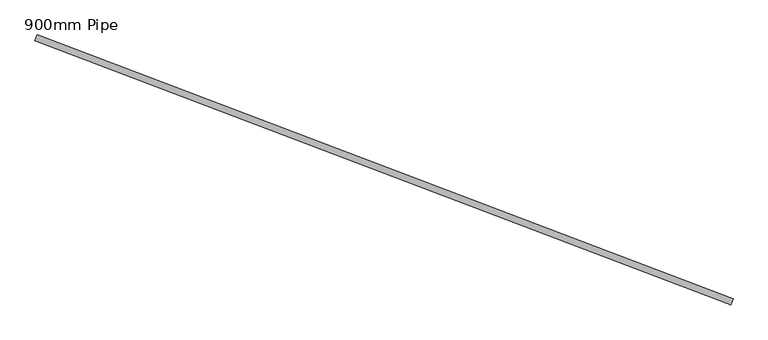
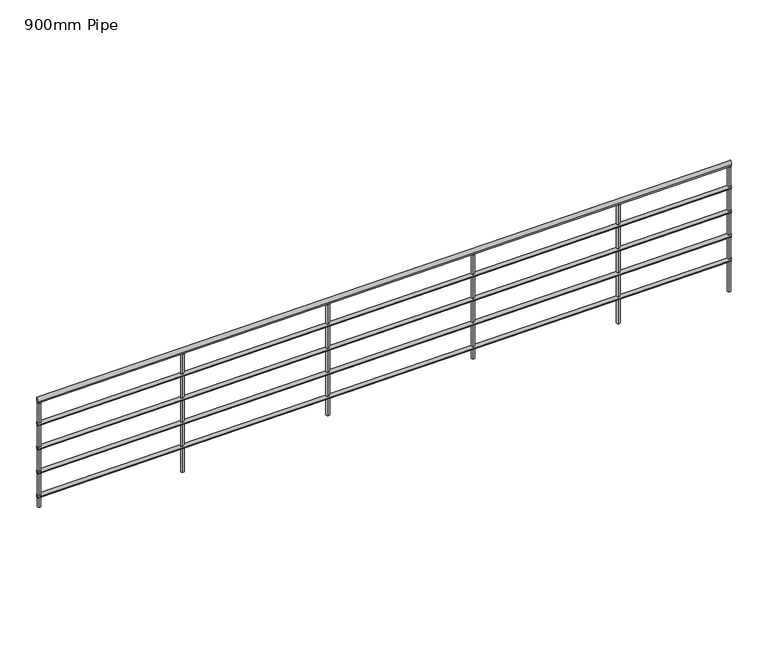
"""IFC4 building model written with IfcOpenShell, lengths in millimetres: railing geometry, 900mm Pipe."""

from ifc_helpers import new_model, si_unit, frame, origin, place, context, project, spatial, circle_curve, ellipse_curve, source, transform, mapped, element, save
from ifc_brep_helpers import plane_surface, cylinder_surface, advanced_brep


def railing_900mm_pipe_20712208(model_context):
    return source(origin(), model_context, "Body", "AdvancedBrep", [
        advanced_brep(
        [(920409.5984753, 6145.726516, 7058.4111789), (920423.8057979, 6183.1183865, 7058.4111789), (924873.0094972, 4449.8199024, 8492.7641201), (924887.2168199, 4487.211773, 8492.7641201)],
        [
            (0, 1, ellipse_curve(frame((920416.7021366, 6164.4224513, 7058.4111789), z_axis=(-0.9347967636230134, 0.3551830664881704, 0.0), x_axis=(0.0, 0.0, -0.9999999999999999)), 20.8829388, 20.0)),
            (1, 0, ellipse_curve(frame((920416.7021366, 6164.4224513, 7058.4111789), z_axis=(-0.9347967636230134, 0.3551830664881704, 0.0), x_axis=(0.0, 0.0, -0.9999999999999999)), 20.8829388, 20.0)),
            (2, 3, ellipse_curve(frame((924880.1131585, 4468.5158377, 8492.7641201), z_axis=(0.9347967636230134, -0.3551830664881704, 0.0), x_axis=(0.0, 0.0, -0.9999999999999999)), 20.8829388, 20.0)),
            (3, 2, ellipse_curve(frame((924880.1131585, 4468.5158377, 8492.7641201), z_axis=(0.9347967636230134, -0.3551830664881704, 0.0), x_axis=(0.0, 0.0, -0.9999999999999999)), 20.8829388, 20.0)),
            (1, 3),
            (2, 0),
        ],
        [
            plane_surface(frame((920416.7021366, 6164.4224513, 7079.2941176), z_axis=(-0.9347967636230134, 0.3551830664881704, 0.0), x_axis=(0.3551830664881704, 0.9347967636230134, 0.0))),
            plane_surface(frame((924880.1131585, 4468.5158377, 8513.6470588), z_axis=(0.9347967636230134, -0.3551830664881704, 0.0), x_axis=(0.3551830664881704, 0.9347967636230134, 0.0))),
            cylinder_surface(frame((920422.0810174, 6162.378705, 7060.1397254), z_axis=(-0.8952731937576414, 0.3401657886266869, -0.2877032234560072), x_axis=(0.3551830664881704, 0.9347967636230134, 0.0)), 20.0),
        ],
        [
            (0, [[1, 2]]),
            (1, [[3, 4]]),
            (2, [[-2, 5, -3, 6]]),
            (2, [[-1, -6, -4, -5]]),
        ],
    ),
        advanced_brep(
        [(920411.3743906, 6150.4004998, 6863.6319136), (920422.0298826, 6178.4444027, 6863.6319136), (924874.7854125, 4454.4938863, 8297.9848548), (924885.4409045, 4482.5377892, 8297.9848548)],
        [
            (0, 1, ellipse_curve(frame((920416.7021366, 6164.4224513, 6863.6319136), z_axis=(-0.9347967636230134, 0.3551830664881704, 0.0), x_axis=(0.0, 0.0, -0.9999999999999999)), 15.6622041, 15.0)),
            (1, 0, ellipse_curve(frame((920416.7021366, 6164.4224513, 6863.6319136), z_axis=(-0.9347967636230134, 0.3551830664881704, 0.0), x_axis=(0.0, 0.0, -0.9999999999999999)), 15.6622041, 15.0)),
            (2, 3, ellipse_curve(frame((924880.1131585, 4468.5158377, 8297.9848548), z_axis=(0.9347967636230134, -0.3551830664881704, 0.0), x_axis=(0.0, 0.0, -0.9999999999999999)), 15.6622041, 15.0)),
            (3, 2, ellipse_curve(frame((924880.1131585, 4468.5158377, 8297.9848548), z_axis=(0.9347967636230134, -0.3551830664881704, 0.0), x_axis=(0.0, 0.0, -0.9999999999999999)), 15.6622041, 15.0)),
            (0, 2),
            (3, 1),
        ],
        [
            plane_surface(frame((920416.7021366, 6164.4224513, 6879.2941176), z_axis=(-0.9347967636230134, 0.3551830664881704, 0.0), x_axis=(0.3551830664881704, 0.9347967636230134, 0.0))),
            plane_surface(frame((924880.1131585, 4468.5158377, 8313.6470588), z_axis=(0.9347967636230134, -0.3551830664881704, 0.0), x_axis=(0.3551830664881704, 0.9347967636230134, 0.0))),
            cylinder_surface(frame((920420.7362972, 6162.8896416, 6864.9283235), z_axis=(-0.8952731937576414, 0.3401657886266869, -0.2877032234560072), x_axis=(0.3551830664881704, 0.9347967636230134, 0.0)), 15.0),
        ],
        [
            (0, [[1, 2]]),
            (1, [[3, 4]]),
            (2, [[-1, 5, -4, 6]]),
            (2, [[-2, -6, -3, -5]]),
        ],
    ),
        advanced_brep(
        [(920411.3743906, 6150.4004998, 6663.6319136), (920422.0298826, 6178.4444027, 6663.6319136), (924874.7854125, 4454.4938863, 8097.9848548), (924885.4409045, 4482.5377892, 8097.9848548)],
        [
            (0, 1, ellipse_curve(frame((920416.7021366, 6164.4224513, 6663.6319136), z_axis=(-0.9347967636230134, 0.3551830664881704, 0.0), x_axis=(0.0, 0.0, -0.9999999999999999)), 15.6622041, 15.0)),
            (1, 0, ellipse_curve(frame((920416.7021366, 6164.4224513, 6663.6319136), z_axis=(-0.9347967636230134, 0.3551830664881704, 0.0), x_axis=(0.0, 0.0, -0.9999999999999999)), 15.6622041, 15.0)),
            (2, 3, ellipse_curve(frame((924880.1131585, 4468.5158377, 8097.9848548), z_axis=(0.9347967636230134, -0.3551830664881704, 0.0), x_axis=(0.0, 0.0, -0.9999999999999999)), 15.6622041, 15.0)),
            (3, 2, ellipse_curve(frame((924880.1131585, 4468.5158377, 8097.9848548), z_axis=(0.9347967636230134, -0.3551830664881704, 0.0), x_axis=(0.0, 0.0, -0.9999999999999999)), 15.6622041, 15.0)),
            (0, 2),
            (3, 1),
        ],
        [
            plane_surface(frame((920416.7021366, 6164.4224513, 6679.2941176), z_axis=(-0.9347967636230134, 0.3551830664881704, 0.0), x_axis=(0.3551830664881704, 0.9347967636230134, 0.0))),
            plane_surface(frame((924880.1131585, 4468.5158377, 8113.6470588), z_axis=(0.9347967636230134, -0.3551830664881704, 0.0), x_axis=(0.3551830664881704, 0.9347967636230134, 0.0))),
            cylinder_surface(frame((920420.7362972, 6162.8896416, 6664.9283235), z_axis=(-0.8952731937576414, 0.3401657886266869, -0.2877032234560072), x_axis=(0.3551830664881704, 0.9347967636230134, 0.0)), 15.0),
        ],
        [
            (0, [[1, 2]]),
            (1, [[3, 4]]),
            (2, [[-1, 5, -4, 6]]),
            (2, [[-2, -6, -3, -5]]),
        ],
    ),
        advanced_brep(
        [(920411.3743906, 6150.4004998, 6463.6319136), (920422.0298826, 6178.4444027, 6463.6319136), (924874.7854125, 4454.4938863, 7897.9848548), (924885.4409045, 4482.5377892, 7897.9848548)],
        [
            (0, 1, ellipse_curve(frame((920416.7021366, 6164.4224513, 6463.6319136), z_axis=(-0.9347967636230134, 0.3551830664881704, 0.0), x_axis=(0.0, 0.0, -0.9999999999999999)), 15.6622041, 15.0)),
            (1, 0, ellipse_curve(frame((920416.7021366, 6164.4224513, 6463.6319136), z_axis=(-0.9347967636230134, 0.3551830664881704, 0.0), x_axis=(0.0, 0.0, -0.9999999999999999)), 15.6622041, 15.0)),
            (2, 3, ellipse_curve(frame((924880.1131585, 4468.5158377, 7897.9848548), z_axis=(0.9347967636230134, -0.3551830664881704, 0.0), x_axis=(0.0, 0.0, -0.9999999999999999)), 15.6622041, 15.0)),
            (3, 2, ellipse_curve(frame((924880.1131585, 4468.5158377, 7897.9848548), z_axis=(0.9347967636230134, -0.3551830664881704, 0.0), x_axis=(0.0, 0.0, -0.9999999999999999)), 15.6622041, 15.0)),
            (0, 2),
            (3, 1),
        ],
        [
            plane_surface(frame((920416.7021366, 6164.4224513, 6479.2941176), z_axis=(-0.9347967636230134, 0.3551830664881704, 0.0), x_axis=(0.3551830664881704, 0.9347967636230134, 0.0))),
            plane_surface(frame((924880.1131585, 4468.5158377, 7913.6470588), z_axis=(0.9347967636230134, -0.3551830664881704, 0.0), x_axis=(0.3551830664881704, 0.9347967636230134, 0.0))),
            cylinder_surface(frame((920420.7362972, 6162.8896416, 6464.9283235), z_axis=(-0.8952731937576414, 0.3401657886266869, -0.2877032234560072), x_axis=(0.3551830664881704, 0.9347967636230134, 0.0)), 15.0),
        ],
        [
            (0, [[1, 2]]),
            (1, [[3, 4]]),
            (2, [[-1, 5, -4, 6]]),
            (2, [[-2, -6, -3, -5]]),
        ],
    ),
        advanced_brep(
        [(920411.3743906, 6150.4004998, 6263.6319136), (920422.0298826, 6178.4444027, 6263.6319136), (924874.7854125, 4454.4938863, 7697.9848548), (924885.4409045, 4482.5377892, 7697.9848548)],
        [
            (0, 1, ellipse_curve(frame((920416.7021366, 6164.4224513, 6263.6319136), z_axis=(-0.9347967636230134, 0.3551830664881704, 0.0), x_axis=(0.0, 0.0, -0.9999999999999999)), 15.6622041, 15.0)),
            (1, 0, ellipse_curve(frame((920416.7021366, 6164.4224513, 6263.6319136), z_axis=(-0.9347967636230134, 0.3551830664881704, 0.0), x_axis=(0.0, 0.0, -0.9999999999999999)), 15.6622041, 15.0)),
            (2, 3, ellipse_curve(frame((924880.1131585, 4468.5158377, 7697.9848548), z_axis=(0.9347967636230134, -0.3551830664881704, 0.0), x_axis=(0.0, 0.0, -0.9999999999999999)), 15.6622041, 15.0)),
            (3, 2, ellipse_curve(frame((924880.1131585, 4468.5158377, 7697.9848548), z_axis=(0.9347967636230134, -0.3551830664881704, 0.0), x_axis=(0.0, 0.0, -0.9999999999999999)), 15.6622041, 15.0)),
            (0, 2),
            (3, 1),
        ],
        [
            plane_surface(frame((920416.7021366, 6164.4224513, 6279.2941176), z_axis=(-0.9347967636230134, 0.3551830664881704, 0.0), x_axis=(0.3551830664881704, 0.9347967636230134, 0.0))),
            plane_surface(frame((924880.1131585, 4468.5158377, 7713.6470588), z_axis=(0.9347967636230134, -0.3551830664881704, 0.0), x_axis=(0.3551830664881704, 0.9347967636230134, 0.0))),
            cylinder_surface(frame((920420.7362972, 6162.8896416, 6264.9283235), z_axis=(-0.8952731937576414, 0.3401657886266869, -0.2877032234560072), x_axis=(0.3551830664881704, 0.9347967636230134, 0.0)), 15.0),
        ],
        [
            (0, [[1, 2]]),
            (1, [[3, 4]]),
            (2, [[-1, 5, -4, 6]]),
            (2, [[-2, -6, -3, -5]]),
        ],
    ),
        advanced_brep(
        [(924160.3289794, 4755.3751449, 8239.145999), (924151.4494028, 4732.0052258, 8239.145999), (924151.4494028, 4732.0052258, 7255.0588235), (924160.3289794, 4755.3751449, 7255.0588235)],
        [
            (0, 1, ellipse_curve(frame((924155.8891911, 4743.6901853, 8239.145999), z_axis=(0.26894404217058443, -0.10218731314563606, -0.9577196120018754), x_axis=(0.8952731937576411, -0.34016578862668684, 0.28770322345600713)), 13.0518367, 12.5)),
            (1, 2),
            (2, 3, circle_curve(frame((924155.8891911, 4743.6901853, 7255.0588235), z_axis=(0.0, 0.0, 1.0), x_axis=(-0.3551830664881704, -0.9347967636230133, 0.0)), 12.5)),
            (3, 0),
            (3, 2, circle_curve(frame((924155.8891911, 4743.6901853, 7255.0588235), z_axis=(0.0, 0.0, 1.0), x_axis=(-0.3551830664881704, -0.9347967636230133, 0.0)), 12.5)),
            (1, 0, ellipse_curve(frame((924155.8891911, 4743.6901853, 8239.145999), z_axis=(0.26894404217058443, -0.10218731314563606, -0.9577196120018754), x_axis=(0.8952731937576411, -0.34016578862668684, 0.28770322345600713)), 13.0518367, 12.5)),
        ],
        [
            cylinder_surface(frame((924155.8891911, 4743.6901853, 7155.0588235), z_axis=(0.0, 0.0, 1.0), x_axis=(-0.3551830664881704, -0.9347967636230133, 0.0)), 12.5),
            plane_surface(frame((924170.3795335, 4711.4406896, 8246.65611), z_axis=(-0.26894404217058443, 0.10218731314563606, 0.9577196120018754), x_axis=(0.3551830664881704, 0.9347967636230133, 0.0))),
            plane_surface(frame((924123.6396953, 4729.1998429, 7255.0588235), z_axis=(0.0, 0.0, -1.0), x_axis=(0.3551830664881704, 0.9347967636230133, 0.0))),
        ],
        [
            (0, [[1, 2, 3, 4]]),
            (0, [[5, -2, 6, -4]]),
            (1, [[-6, -1]]),
            (2, [[-5, -3]]),
        ],
    ),
        advanced_brep(
        [(923225.5322158, 5110.5582114, 7938.7415593), (923216.6526391, 5087.1882923, 7938.7415593), (923216.6526391, 5087.1882923, 7075.7647059), (923225.5322158, 5110.5582114, 7075.7647059)],
        [
            (0, 1, ellipse_curve(frame((923221.0924275, 5098.8732518, 7938.7415593), z_axis=(0.26894404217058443, -0.10218731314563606, -0.9577196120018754), x_axis=(0.8952731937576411, -0.34016578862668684, 0.28770322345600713)), 13.0518367, 12.5)),
            (1, 2),
            (2, 3, circle_curve(frame((923221.0924275, 5098.8732518, 7075.7647059), z_axis=(0.0, 0.0, 1.0), x_axis=(-0.3551830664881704, -0.9347967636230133, 0.0)), 12.5)),
            (3, 0),
            (3, 2, circle_curve(frame((923221.0924275, 5098.8732518, 7075.7647059), z_axis=(0.0, 0.0, 1.0), x_axis=(-0.3551830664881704, -0.9347967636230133, 0.0)), 12.5)),
            (1, 0, ellipse_curve(frame((923221.0924275, 5098.8732518, 7938.7415593), z_axis=(0.26894404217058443, -0.10218731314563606, -0.9577196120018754), x_axis=(0.8952731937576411, -0.34016578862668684, 0.28770322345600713)), 13.0518367, 12.5)),
        ],
        [
            cylinder_surface(frame((923221.0924275, 5098.8732518, 6975.7647059), z_axis=(0.0, 0.0, 1.0), x_axis=(-0.3551830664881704, -0.9347967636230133, 0.0)), 12.5),
            plane_surface(frame((923235.5827699, 5066.6237561, 7946.2516703), z_axis=(-0.26894404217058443, 0.10218731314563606, 0.9577196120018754), x_axis=(0.3551830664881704, 0.9347967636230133, 0.0))),
            plane_surface(frame((923188.8429317, 5084.3829094, 7075.7647059), z_axis=(0.0, 0.0, -1.0), x_axis=(0.3551830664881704, 0.9347967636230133, 0.0))),
        ],
        [
            (0, [[1, 2, 3, 4]]),
            (0, [[5, -2, 6, -4]]),
            (1, [[-6, -1]]),
            (2, [[-5, -3]]),
        ],
    ),
        advanced_brep(
        [(922290.7354522, 5465.7412778, 7638.3371196), (922281.8558755, 5442.3713588, 7638.3371196), (922281.8558755, 5442.3713588, 6717.1764706), (922290.7354522, 5465.7412778, 6717.1764706)],
        [
            (0, 1, ellipse_curve(frame((922286.2956638, 5454.0563183, 7638.3371196), z_axis=(0.26894404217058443, -0.10218731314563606, -0.9577196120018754), x_axis=(0.8952731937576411, -0.34016578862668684, 0.28770322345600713)), 13.0518367, 12.5)),
            (1, 2),
            (2, 3, circle_curve(frame((922286.2956638, 5454.0563183, 6717.1764706), z_axis=(0.0, 0.0, 1.0), x_axis=(-0.3551830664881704, -0.9347967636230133, 0.0)), 12.5)),
            (3, 0),
            (3, 2, circle_curve(frame((922286.2956638, 5454.0563183, 6717.1764706), z_axis=(0.0, 0.0, 1.0), x_axis=(-0.3551830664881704, -0.9347967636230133, 0.0)), 12.5)),
            (1, 0, ellipse_curve(frame((922286.2956638, 5454.0563183, 7638.3371196), z_axis=(0.26894404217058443, -0.10218731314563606, -0.9577196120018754), x_axis=(0.8952731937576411, -0.34016578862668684, 0.28770322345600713)), 13.0518367, 12.5)),
        ],
        [
            cylinder_surface(frame((922286.2956638, 5454.0563183, 6617.1764706), z_axis=(0.0, 0.0, 1.0), x_axis=(-0.3551830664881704, -0.9347967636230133, 0.0)), 12.5),
            plane_surface(frame((922300.7860063, 5421.8068225, 7645.8472306), z_axis=(-0.26894404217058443, 0.10218731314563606, 0.9577196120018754), x_axis=(0.3551830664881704, 0.9347967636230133, 0.0))),
            plane_surface(frame((922254.0461681, 5439.5659759, 6717.1764706), z_axis=(0.0, 0.0, -1.0), x_axis=(0.3551830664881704, 0.9347967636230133, 0.0))),
        ],
        [
            (0, [[1, 2, 3, 4]]),
            (0, [[5, -2, 6, -4]]),
            (1, [[-6, -1]]),
            (2, [[-5, -3]]),
        ],
    ),
        advanced_brep(
        [(921355.9386885, 5820.9243443, 7337.9326799), (921347.0591119, 5797.5544252, 7337.9326799), (921347.0591119, 5797.5544252, 6358.5882353), (921355.9386885, 5820.9243443, 6358.5882353)],
        [
            (0, 1, ellipse_curve(frame((921351.4989002, 5809.2393848, 7337.9326799), z_axis=(0.26894404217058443, -0.10218731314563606, -0.9577196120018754), x_axis=(0.8952731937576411, -0.34016578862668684, 0.28770322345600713)), 13.0518367, 12.5)),
            (1, 2),
            (2, 3, circle_curve(frame((921351.4989002, 5809.2393848, 6358.5882353), z_axis=(0.0, 0.0, 1.0), x_axis=(-0.3551830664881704, -0.9347967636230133, 0.0)), 12.5)),
            (3, 0),
            (3, 2, circle_curve(frame((921351.4989002, 5809.2393848, 6358.5882353), z_axis=(0.0, 0.0, 1.0), x_axis=(-0.3551830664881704, -0.9347967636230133, 0.0)), 12.5)),
            (1, 0, ellipse_curve(frame((921351.4989002, 5809.2393848, 7337.9326799), z_axis=(0.26894404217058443, -0.10218731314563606, -0.9577196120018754), x_axis=(0.8952731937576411, -0.34016578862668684, 0.28770322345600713)), 13.0518367, 12.5)),
        ],
        [
            cylinder_surface(frame((921351.4989002, 5809.2393848, 6258.5882353), z_axis=(0.0, 0.0, 1.0), x_axis=(-0.3551830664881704, -0.9347967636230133, 0.0)), 12.5),
            plane_surface(frame((921365.9892426, 5776.989889, 7345.4427909), z_axis=(-0.26894404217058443, 0.10218731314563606, 0.9577196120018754), x_axis=(0.3551830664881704, 0.9347967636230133, 0.0))),
            plane_surface(frame((921319.2494045, 5794.7490424, 6358.5882353), z_axis=(0.0, 0.0, -1.0), x_axis=(0.3551830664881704, 0.9347967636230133, 0.0))),
        ],
        [
            (0, [[1, 2, 3, 4]]),
            (0, [[5, -2, 6, -4]]),
            (1, [[-6, -1]]),
            (2, [[-5, -3]]),
        ],
    ),
        advanced_brep(
        [(924872.8679873, 4484.6405856, 8468.1261258), (924863.9884107, 4461.2706665, 8468.1261258), (924863.9884107, 4461.2706665, 7434.3529412), (924872.8679873, 4484.6405856, 7434.3529412)],
        [
            (0, 1, ellipse_curve(frame((924868.428199, 4472.955626, 8468.1261258), z_axis=(0.2689440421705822, -0.10218731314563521, -0.957719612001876), x_axis=(0.8952731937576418, -0.34016578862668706, 0.28770322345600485)), 13.0518367, 12.5)),
            (1, 2),
            (2, 3, circle_curve(frame((924868.428199, 4472.955626, 7434.3529412), z_axis=(0.0, 0.0, 1.0), x_axis=(-0.3551830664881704, -0.9347967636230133, 0.0)), 12.5)),
            (3, 0),
            (3, 2, circle_curve(frame((924868.428199, 4472.955626, 7434.3529412), z_axis=(0.0, 0.0, 1.0), x_axis=(-0.3551830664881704, -0.9347967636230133, 0.0)), 12.5)),
            (1, 0, ellipse_curve(frame((924868.428199, 4472.955626, 8468.1261258), z_axis=(0.2689440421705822, -0.10218731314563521, -0.957719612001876), x_axis=(0.8952731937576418, -0.34016578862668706, 0.28770322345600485)), 13.0518367, 12.5)),
        ],
        [
            cylinder_surface(frame((924868.428199, 4472.955626, 7334.3529412), z_axis=(0.0, 0.0, 1.0), x_axis=(-0.3551830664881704, -0.9347967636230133, 0.0)), 12.5),
            plane_surface(frame((924882.9185414, 4440.7061303, 8475.6362368), z_axis=(-0.2689440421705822, 0.10218731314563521, 0.957719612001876), x_axis=(0.3551830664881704, 0.9347967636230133, 0.0))),
            plane_surface(frame((924836.1787032, 4458.4652836, 7434.3529412), z_axis=(0.0, 0.0, -1.0), x_axis=(0.3551830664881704, 0.9347967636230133, 0.0))),
        ],
        [
            (0, [[1, 2, 3, 4]]),
            (0, [[5, -2, 6, -4]]),
            (1, [[-6, -1]]),
            (2, [[-5, -3]]),
        ],
    ),
        advanced_brep(
        [(920432.8268845, 6171.6676225, 7041.2832956), (920423.9473078, 6148.2977034, 7041.2832956), (920423.9473078, 6148.2977034, 6179.2941176), (920432.8268845, 6171.6676225, 6179.2941176)],
        [
            (0, 1, ellipse_curve(frame((920428.3870961, 6159.9826629, 7041.2832956), z_axis=(0.2689440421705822, -0.10218731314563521, -0.957719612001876), x_axis=(0.8952731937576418, -0.34016578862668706, 0.28770322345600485)), 13.0518367, 12.5)),
            (1, 2),
            (2, 3, circle_curve(frame((920428.3870961, 6159.9826629, 6179.2941176), z_axis=(0.0, 0.0, 1.0), x_axis=(-0.3551830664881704, -0.9347967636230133, 0.0)), 12.5)),
            (3, 0),
            (3, 2, circle_curve(frame((920428.3870961, 6159.9826629, 6179.2941176), z_axis=(0.0, 0.0, 1.0), x_axis=(-0.3551830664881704, -0.9347967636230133, 0.0)), 12.5)),
            (1, 0, ellipse_curve(frame((920428.3870961, 6159.9826629, 7041.2832956), z_axis=(0.2689440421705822, -0.10218731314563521, -0.957719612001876), x_axis=(0.8952731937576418, -0.34016578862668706, 0.28770322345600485)), 13.0518367, 12.5)),
        ],
        [
            cylinder_surface(frame((920428.3870961, 6159.9826629, 6079.2941176), z_axis=(0.0, 0.0, 1.0), x_axis=(-0.3551830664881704, -0.9347967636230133, 0.0)), 12.5),
            plane_surface(frame((920442.8774386, 6127.7331672, 7048.7934066), z_axis=(-0.2689440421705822, 0.10218731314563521, 0.957719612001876), x_axis=(0.3551830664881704, 0.9347967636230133, 0.0))),
            plane_surface(frame((920396.1376004, 6145.4923205, 6179.2941176), z_axis=(0.0, 0.0, -1.0), x_axis=(0.3551830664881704, 0.9347967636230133, 0.0))),
        ],
        [
            (0, [[1, 2, 3, 4]]),
            (0, [[5, -2, 6, -4]]),
            (1, [[-6, -1]]),
            (2, [[-5, -3]]),
        ],
    ),
    ])


if __name__ == "__main__":
    model = new_model("IFC4")
    model_context = context("Model", 3, world=origin())
    ifc_project = project(units=[si_unit("LENGTHUNIT", "METRE", prefix="MILLI")], contexts=[model_context])
    site = spatial("IfcSite", under=ifc_project)
    building = spatial("IfcBuilding", under=site)
    placement = place(None, origin())
    railing_900mm_pipe_shape = railing_900mm_pipe_20712208(model_context)
    element("IfcRailing", 1, ObjectType="900mm Pipe", at=placement, inside=building, context=model_context, shape_type="MappedRepresentation", body=[
        mapped(railing_900mm_pipe_shape, transform((0.0, 0.0, 0.0), x_axis=(1.0, 0.0, 0.0), y_axis=(0.0, 1.0, 0.0), z_axis=(0.0, 0.0, 1.0))),
    ])
    save(model, "model.ifc")
